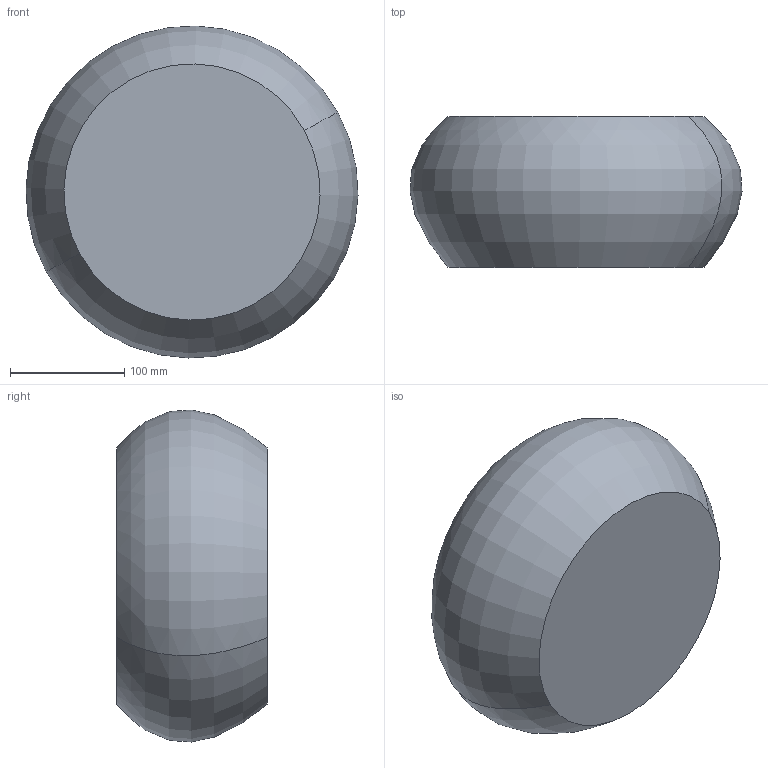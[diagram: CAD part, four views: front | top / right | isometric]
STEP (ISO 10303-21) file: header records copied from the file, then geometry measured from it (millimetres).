
FILE_DESCRIPTION(('CATIA V5 STEP Exchange'),'2;1');
FILE_NAME('C:\_Andres\UNIVERSIDAD\IQS\ASIGNATURAS\DAO\EXF\EXF-15161c\1original\Sala_García_Ej10-decora_v22.stp','2016-03-04T22:24:14+00:00',('none'),('none'),'CATIA Version 5 Release 20 SP 1 (IN-10)','CATIA V5 STEP AP203','none');
FILE_SCHEMA(('CONFIG_CONTROL_DESIGN'));
Length unit declared in the file: millimetre
Products named in the file (1): Sala_García_Ej10-decora_v22
Bounding box: 290.32 x 132 x 290.32 mm (x, y, z)
Volume: 7516230.2 mm3; surface area: 206051.3 mm2
Topology: 1 solids, 1 shells, 4 faces, 6 edges, 4 vertices
Faces by surface type: revolution 2, plane 2
Entity records: 166 total; most frequent: CARTESIAN_POINT 50, DIRECTION 12, ORIENTED_EDGE 12, AXIS2_PLACEMENT_3D 8, EDGE_CURVE 6, ADVANCED_FACE 4, B_SPLINE_CURVE_WITH_KNOTS 4, CC_DESIGN_PERSON_AND_ORGANIZATION_ASSIGNMENT 4
